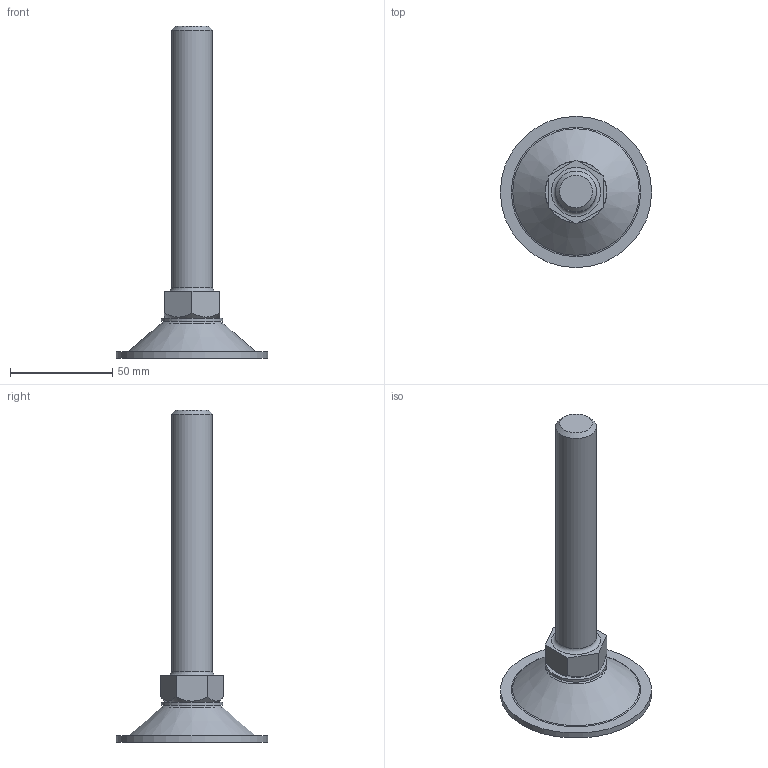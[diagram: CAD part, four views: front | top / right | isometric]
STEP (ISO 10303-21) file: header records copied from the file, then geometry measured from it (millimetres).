
FILE_DESCRIPTION(/* description */ (''),/* implementation_level */ '2;1');
FILE_NAME(/* name */ 'D:\조절자\PF\PF-M20-130L.stp',/* time_stamp */ '2016-03-14T14:54:54+09:00',/* author */ ('GS-DT-1-001'),/* organization */ (''),/* preprocessor_version */ 'ST-DEVELOPER v15.6',/* originating_system */ 'Autodesk Inventor LT ',/* authorisation */ '');
FILE_SCHEMA (('AUTOMOTIVE_DESIGN { 1 0 10303 214 3 1 1 }'));
Length unit declared in the file: millimetre
Products named in the file (1): PF-M20-130L
Bounding box: 74 x 74 x 162.5 mm (x, y, z)
Volume: 64365.1 mm3; surface area: 22990.9 mm2
Topology: 3 solids, 3 shells, 31 faces, 62 edges, 41 vertices
Faces by surface type: plane 16, cylinder 6, torus 5, cone 4
Full cylindrical faces by diameter (mm): 7.153 x1, 8.2 x1, 8.8 x1, 20 x1, 30 x1, 74 x1
Entity records: 706 total; most frequent: DIRECTION 122, CARTESIAN_POINT 120, ORIENTED_EDGE 82, AXIS2_PLACEMENT_3D 55, EDGE_LOOP 54, EDGE_CURVE 41, VERTEX_POINT 35, FACE_OUTER_BOUND 31
